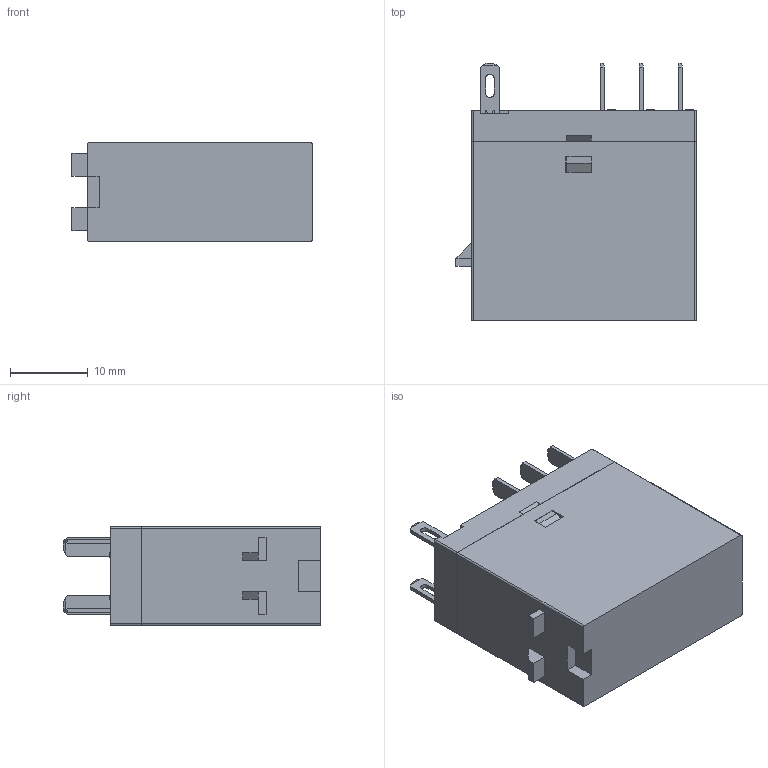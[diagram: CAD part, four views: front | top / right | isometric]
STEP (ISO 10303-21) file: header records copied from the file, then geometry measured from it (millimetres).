
FILE_DESCRIPTION (( 'STEP AP203' ), '1' );
FILE_NAME ('69K2Z.STEP', '2019-03-14T05:35:33', ( 'XiaZaiMa.COM' ), ( 'Win10NeT.COM' ), 'SwSTEP 2.0', 'SolidWorks 2014', '' );
FILE_SCHEMA (( 'CONFIG_CONTROL_DESIGN' ));
Length unit declared in the file: millimetre
Products named in the file (20): 2Z衵諉盄え; 2Z狟噙銅; 2Z俋褲; 2Z酘奻噙銅; 沺郋-AC; 2Z衵奻噙銅; 2Z线圈架-AC; 2Z噙揖萸; 2Z價釱; 傻繚遠; 2Z雄萸穩綴; 濎沺; 2Z芢雄殤; 2Z酘諉盄え; 玴沺; 69K2Z; 2Z雄銅え - a; 2Z竘盄褐-蚾饜; 2Z雄銅え - b; 揤銅え
Assembly tree (27 placements, depth 2):
  69K2Z
    2Z價釱
    濎沺
    玴沺
    2Z竘盄褐-蚾饜  x2
    揤銅え
    2Z狟噙銅  x2
    2Z酘奻噙銅
    2Z衵奻噙銅
    2Z噙揖萸  x4
    2Z雄萸穩綴  x2
    2Z酘諉盄え
    2Z雄銅え - a  x2
    2Z雄銅え - b  x2
    2Z衵諉盄え
    2Z俋褲
    沺郋-AC
    2Z线圈架-AC
    傻繚遠
    2Z芢雄殤
Bounding box: 30.8 x 33 x 12.7 mm (x, y, z)
Volume: 4961.3 mm3; surface area: 12835.1 mm2
Topology: 27 solids, 27 shells, 1615 faces, 4443 edges, 2912 vertices
Faces by surface type: plane 1214, cylinder 316, torus 31, bspline 30, cone 16, sphere 8
Entity records: 50496 total; most frequent: CARTESIAN_POINT 11574, ORIENTED_EDGE 7862, DIRECTION 7188, EDGE_CURVE 3931, VECTOR 3316, LINE 3316, VERTEX_POINT 2576, AXIS2_PLACEMENT_3D 1936
